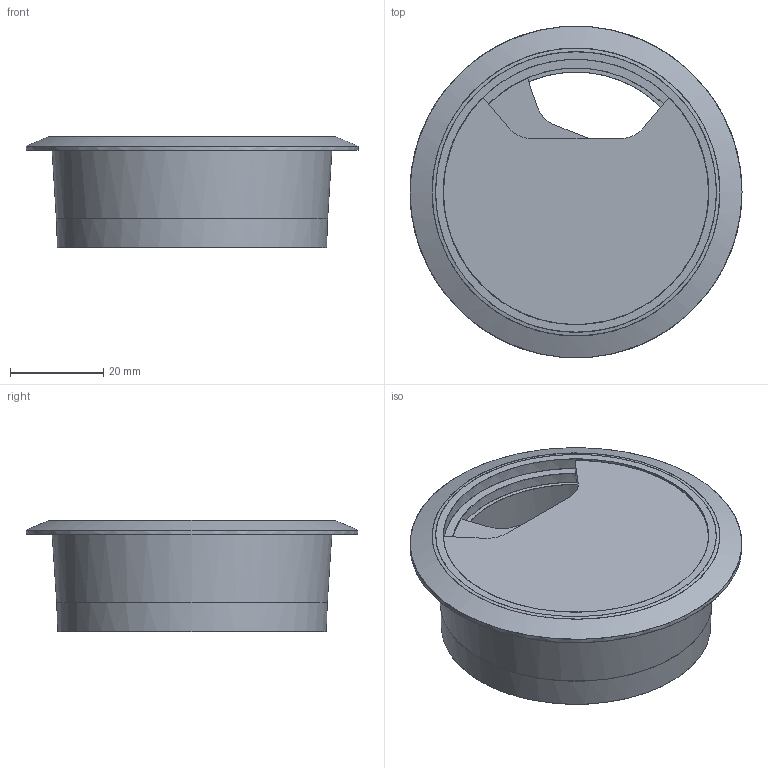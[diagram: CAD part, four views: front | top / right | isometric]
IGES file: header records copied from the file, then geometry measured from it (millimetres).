
Start section: C
Global section: file name: 0098-72.igs; native system: By Siemens PLM Incorporated; preprocessor: XPlus GENERIC/IGES 16.0.42; author: Author; organization: Title; date: 20231211.115104; units: millimetre
Bounding box: 71.36 x 71.21 x 24 mm (x, y, z)
Surface area: 20018.3 mm2 (no closed solid volume)
Topology: 0 solids, 0 shells, 31 faces, 160 edges, 160 vertices
Faces by surface type: bspline 31
